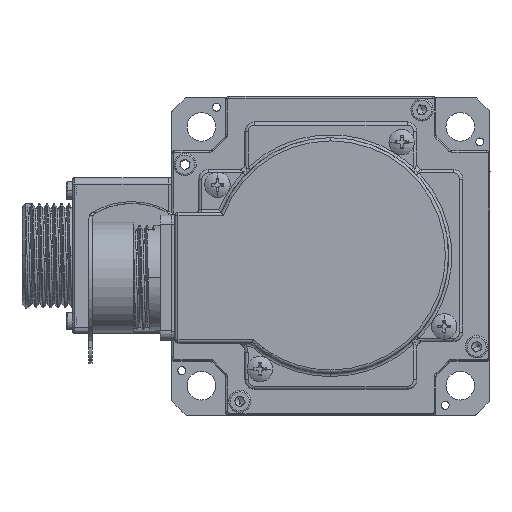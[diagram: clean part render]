
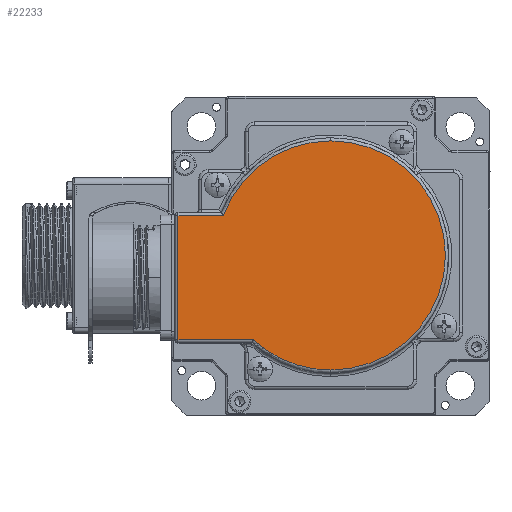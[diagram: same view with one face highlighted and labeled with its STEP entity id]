
A CAD part, top view. The second image highlights one B-rep face of the part: STEP entity #22233.
In plain terms, the highlighted planar face has unit normal (0, 0, 1).
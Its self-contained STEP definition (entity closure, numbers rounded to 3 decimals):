
#1738 = VERTEX_POINT ( 'NONE', #7555 ) ;
#1948 = FACE_OUTER_BOUND ( 'NONE', #25931, .T. ) ;
#2212 = ORIENTED_EDGE ( 'NONE', *, *, #19277, .T. ) ;
#2954 = LINE ( 'NONE', #32628, #30947 ) ;
#5711 = PLANE ( 'NONE',  #15709 ) ;
#5864 = ORIENTED_EDGE ( 'NONE', *, *, #12512, .T. ) ;
#6693 = DIRECTION ( 'NONE',  ( 0., 0., 1. ) ) ;
#6807 = DIRECTION ( 'NONE',  ( 0., 1., 0. ) ) ;
#7555 = CARTESIAN_POINT ( 'NONE',  ( -57.065, -13.801, 49.75 ) ) ;
#7984 = EDGE_CURVE ( 'NONE', #25919, #14720, #26286, .T. ) ;
#8636 = CIRCLE ( 'NONE', #25279, 36. ) ;
#8912 = CARTESIAN_POINT ( 'NONE',  ( -9.065, 48.699, 49.75 ) ) ;
#9902 = VECTOR ( 'NONE', #16559, 1000. ) ;
#10609 = EDGE_CURVE ( 'NONE', #14720, #16958, #20150, .T. ) ;
#12512 = EDGE_CURVE ( 'NONE', #16958, #32987, #8636, .T. ) ;
#13736 = DIRECTION ( 'NONE',  ( 0., 1., 0. ) ) ;
#14425 = LINE ( 'NONE', #24473, #19939 ) ;
#14720 = VERTEX_POINT ( 'NONE', #25394 ) ;
#15709 = AXIS2_PLACEMENT_3D ( 'NONE', #32927, #19407, #13736 ) ;
#15732 = ORIENTED_EDGE ( 'NONE', *, *, #26426, .T. ) ;
#16248 = AXIS2_PLACEMENT_3D ( 'NONE', #19425, #19659, #19549 ) ;
#16559 = DIRECTION ( 'NONE',  ( 1., 0., 0. ) ) ;
#16675 = VERTEX_POINT ( 'NONE', #20062 ) ;
#16958 = VERTEX_POINT ( 'NONE', #8912 ) ;
#19277 = EDGE_CURVE ( 'NONE', #1738, #25919, #21765, .T. ) ;
#19407 = DIRECTION ( 'NONE',  ( 0., 0., 1. ) ) ;
#19425 = CARTESIAN_POINT ( 'NONE',  ( -9.065, 12.699, 49.75 ) ) ;
#19549 = DIRECTION ( 'NONE',  ( 0., 1., 0. ) ) ;
#19628 = CARTESIAN_POINT ( 'NONE',  ( -33.432, -13.801, 49.75 ) ) ;
#19659 = DIRECTION ( 'NONE',  ( 0., 0., 1. ) ) ;
#19739 = CARTESIAN_POINT ( 'NONE',  ( -42.825, 25.199, 49.75 ) ) ;
#19939 = VECTOR ( 'NONE', #32636, 1000. ) ;
#20062 = CARTESIAN_POINT ( 'NONE',  ( -57.065, 25.199, 49.75 ) ) ;
#20150 = CIRCLE ( 'NONE', #22461, 36. ) ;
#20299 = CARTESIAN_POINT ( 'NONE',  ( -9.065, 12.699, 49.75 ) ) ;
#21765 = LINE ( 'NONE', #26775, #9902 ) ;
#22233 = ADVANCED_FACE ( 'NONE', ( #1948 ), #5711, .T. ) ;
#22461 = AXIS2_PLACEMENT_3D ( 'NONE', #20299, #6693, #6807 ) ;
#22780 = ORIENTED_EDGE ( 'NONE', *, *, #10609, .T. ) ;
#24473 = CARTESIAN_POINT ( 'NONE',  ( -57.065, -14.801, 49.75 ) ) ;
#24821 = DIRECTION ( 'NONE',  ( -1., 0., 0. ) ) ;
#25279 = AXIS2_PLACEMENT_3D ( 'NONE', #32414, #32081, #29487 ) ;
#25394 = CARTESIAN_POINT ( 'NONE',  ( -9.065, -23.301, 49.75 ) ) ;
#25919 = VERTEX_POINT ( 'NONE', #19628 ) ;
#25931 = EDGE_LOOP ( 'NONE', ( #27550, #15732, #2212, #33459, #22780, #5864 ) ) ;
#26286 = CIRCLE ( 'NONE', #16248, 36. ) ;
#26426 = EDGE_CURVE ( 'NONE', #16675, #1738, #14425, .T. ) ;
#26775 = CARTESIAN_POINT ( 'NONE',  ( -33.819, -13.801, 49.75 ) ) ;
#27550 = ORIENTED_EDGE ( 'NONE', *, *, #33365, .T. ) ;
#29487 = DIRECTION ( 'NONE',  ( 0., 1., 0. ) ) ;
#30947 = VECTOR ( 'NONE', #24821, 1000. ) ;
#32081 = DIRECTION ( 'NONE',  ( 0., 0., 1. ) ) ;
#32414 = CARTESIAN_POINT ( 'NONE',  ( -9.065, 12.699, 49.75 ) ) ;
#32628 = CARTESIAN_POINT ( 'NONE',  ( -58.065, 25.199, 49.75 ) ) ;
#32636 = DIRECTION ( 'NONE',  ( 0., -1., 0. ) ) ;
#32927 = CARTESIAN_POINT ( 'NONE',  ( -9.065, 12.699, 49.75 ) ) ;
#32987 = VERTEX_POINT ( 'NONE', #19739 ) ;
#33365 = EDGE_CURVE ( 'NONE', #32987, #16675, #2954, .T. ) ;
#33459 = ORIENTED_EDGE ( 'NONE', *, *, #7984, .T. ) ;
